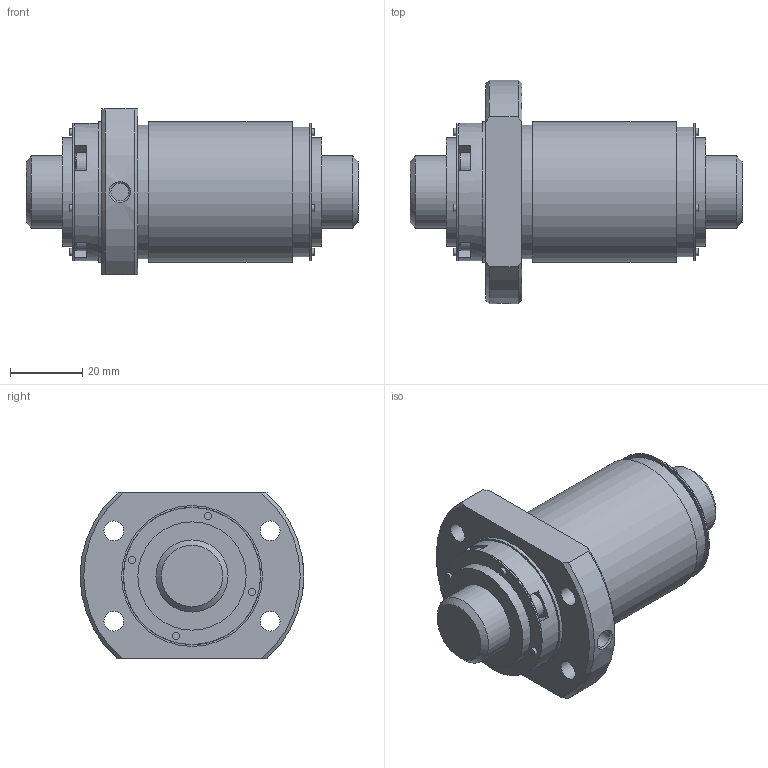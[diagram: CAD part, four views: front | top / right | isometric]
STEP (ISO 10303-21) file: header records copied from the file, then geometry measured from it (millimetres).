
FILE_DESCRIPTION(/* description */ ('STEP AP203'),/* implementation_level */ '2;1');
FILE_NAME(/* name */ 'BLK2020-2.8ZZG1+92LC3_0_1300',/* time_stamp */ '2025-01-16T07:04:39+01:00',/* author */ ('License CC BY-ND 4.0'),/* organization */ ('CADENAS'),/* preprocessor_version */ 'ST-DEVELOPER v19.3',/* originating_system */ 'PARTsolutions',/* authorisation */ ' ');
FILE_SCHEMA (('CONFIG_CONTROL_DESIGN'));
Length unit declared in the file: millimetre
Products named in the file (3): BLK2020-2.8ZZG1+92LC3_0_1300; ZZ0130BLK2020-2.80Shaft; RR0130BLK2020-2.8Nut
Assembly tree (2 placements, depth 2):
  BLK2020-2.8ZZG1+92LC3_0_1300
    ZZ0130BLK2020-2.80Shaft
    RR0130BLK2020-2.8Nut
Bounding box: 92 x 62 x 46 mm (x, y, z)
Volume: 99509.7 mm3; surface area: 26736.9 mm2
Topology: 2 solids, 2 shells, 154 faces, 343 edges, 214 vertices
Faces by surface type: plane 95, cylinder 38, cone 17, torus 4
Full cylindrical faces by diameter (mm): 2 x8, 3 x4, 4.917 x1, 5.5 x4, 7.2 x4, 20 x2, 30 x2, 36 x1, 37.05 x1, 38 x3, 39 x2
Entity records: 4036 total; most frequent: CARTESIAN_POINT 769, DIRECTION 686, ORIENTED_EDGE 558, AXIS2_PLACEMENT_3D 283, EDGE_CURVE 279, FACE_BOUND 238, EDGE_LOOP 234, VERTEX_POINT 203
